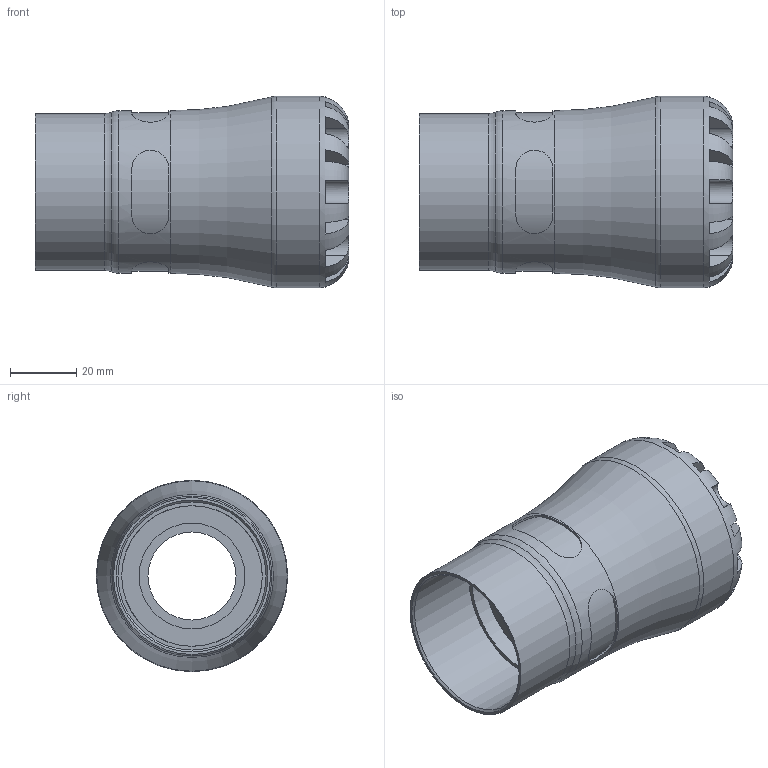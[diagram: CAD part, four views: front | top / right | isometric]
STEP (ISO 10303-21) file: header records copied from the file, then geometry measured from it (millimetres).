
FILE_DESCRIPTION(/* description */ ('PLASSON FEMALE ADAPTOR 32X1.1/2" SERIES 1'),/* implementation_level */ '2;1');
FILE_NAME(/* name */ 'C:\Dropbox\KIMPROJECTS-Inventor\99-16-3568-Processing\S1\53mp\1003\100300032015_190300032015.ipt.stp',/* time_stamp */ '2019-10-29T10:11:36+02:00',/* author */ ('KIM'),/* organization */ (''),/* preprocessor_version */ 'ST-DEVELOPER v15.6',/* originating_system */ 'Autodesk Inventor 2015',/* authorisation */ '');
FILE_SCHEMA (('AUTOMOTIVE_DESIGN { 1 0 10303 214 3 1 1 }'));
Length unit declared in the file: millimetre
Products named in the file (1): 100300032015_190300032015
Bounding box: 95 x 58 x 58 mm (x, y, z)
Volume: 98416.1 mm3; surface area: 30341.2 mm2
Topology: 1 solids, 1 shells, 105 faces, 257 edges, 161 vertices
Faces by surface type: plane 62, cylinder 36, torus 5, cone 2
Full cylindrical faces by diameter (mm): 26.667 x1, 32 x2, 42.603 x1, 44.845 x1, 47.56 x1, 49.3 x1, 58 x1
Entity records: 3884 total; most frequent: CARTESIAN_POINT 1420, DIRECTION 476, ORIENTED_EDGE 472, EDGE_CURVE 236, AXIS2_PLACEMENT_3D 198, VERTEX_POINT 156, EDGE_LOOP 130, STYLED_ITEM 106
